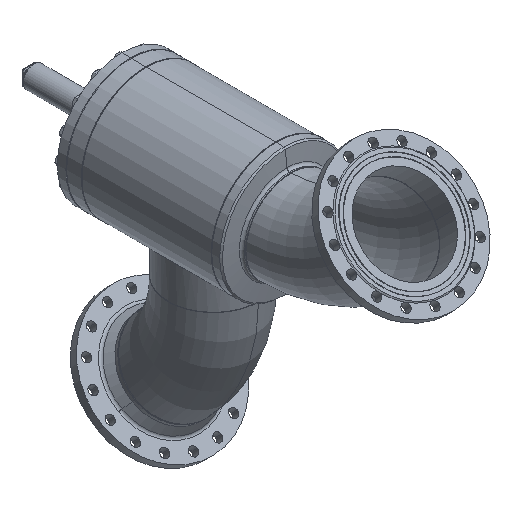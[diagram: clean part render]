
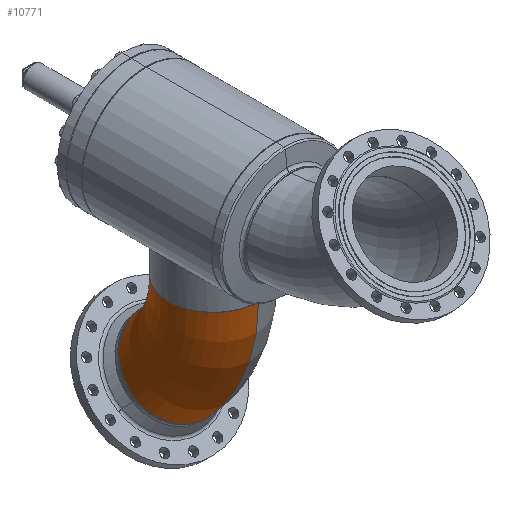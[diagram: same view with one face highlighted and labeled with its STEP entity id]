
A CAD part, isometric view. The second image highlights one B-rep face of the part: STEP entity #10771.
In plain terms, the highlighted toroidal (fillet/blend) face has major radius 533 mm and minor radius 177.8 mm.
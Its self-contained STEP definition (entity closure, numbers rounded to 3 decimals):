
#386 = VERTEX_POINT ( 'NONE', #16191 ) ;
#671 = EDGE_CURVE ( 'NONE', #20298, #386, #16314, .T. ) ;
#2823 = EDGE_CURVE ( 'NONE', #386, #10752, #22336, .T. ) ;
#19733 = CARTESIAN_POINT ( 'NONE',  ( 0., -177.8, 0. ) ) ;
#19759 = FACE_OUTER_BOUND ( 'NONE', #20610, .T. ) ;
#19760 = TOROIDAL_SURFACE ( 'NONE', #19761, 533., 177.8 ) ;
#19761 = AXIS2_PLACEMENT_3D ( 'NONE', #19762, #19763, #19764 ) ;
#19762 = CARTESIAN_POINT ( 'NONE',  ( 0., -533., 0. ) ) ;
#19763 = DIRECTION ( 'NONE',  ( 0., 0., 1. ) ) ;
#19764 = DIRECTION ( 'NONE',  ( 1., 0., 0. ) ) ;
#3633 = EDGE_CURVE ( 'NONE', #20298, #8360, #23323, .T. ) ;
#20298 = VERTEX_POINT ( 'NONE', #14094 ) ;
#20610 = EDGE_LOOP ( 'NONE', ( #11048, #7236, #8223, #5429 ) ) ;
#5429 = ORIENTED_EDGE ( 'NONE', *, *, #12634, .F. ) ;
#22336 = CIRCLE ( 'NONE', #22337, 177.8 ) ;
#22337 = AXIS2_PLACEMENT_3D ( 'NONE', #22338, #22339, #22340 ) ;
#22338 = CARTESIAN_POINT ( 'NONE',  ( 0., 0., 0. ) ) ;
#22339 = DIRECTION ( 'NONE',  ( 1., 0., 0. ) ) ;
#22340 = DIRECTION ( 'NONE',  ( 0., 0., -1. ) ) ;
#22518 = CIRCLE ( 'NONE', #22519, 355.2 ) ;
#22519 = AXIS2_PLACEMENT_3D ( 'NONE', #22520, #22521, #22522 ) ;
#22520 = CARTESIAN_POINT ( 'NONE',  ( 0., -533., 0. ) ) ;
#22521 = DIRECTION ( 'NONE',  ( 0., 0., 1. ) ) ;
#22522 = DIRECTION ( 'NONE',  ( 1., 0., 0. ) ) ;
#23323 = CIRCLE ( 'NONE', #23344, 177.8 ) ;
#23344 = AXIS2_PLACEMENT_3D ( 'NONE', #23345, #23346, #23347 ) ;
#23345 = CARTESIAN_POINT ( 'NONE',  ( 376.888, -156.112, 0. ) ) ;
#23346 = DIRECTION ( 'NONE',  ( 0.707, -0.707, 0. ) ) ;
#23347 = DIRECTION ( 'NONE',  ( 0., 0., -1. ) ) ;
#7236 = ORIENTED_EDGE ( 'NONE', *, *, #671, .T. ) ;
#8223 = ORIENTED_EDGE ( 'NONE', *, *, #2823, .T. ) ;
#8360 = VERTEX_POINT ( 'NONE', #14073 ) ;
#10752 = VERTEX_POINT ( 'NONE', #19733 ) ;
#10771 = ADVANCED_FACE ( 'NONE', ( #19759 ), #19760, .T. ) ;
#11048 = ORIENTED_EDGE ( 'NONE', *, *, #3633, .F. ) ;
#12634 = EDGE_CURVE ( 'NONE', #8360, #10752, #22518, .T. ) ;
#14073 = CARTESIAN_POINT ( 'NONE',  ( 251.164, -281.836, 0. ) ) ;
#14094 = CARTESIAN_POINT ( 'NONE',  ( 502.612, -30.388, 0. ) ) ;
#16191 = CARTESIAN_POINT ( 'NONE',  ( 0., 177.8, 0. ) ) ;
#16314 = CIRCLE ( 'NONE', #16315, 710.8 ) ;
#16315 = AXIS2_PLACEMENT_3D ( 'NONE', #16316, #16317, #16318 ) ;
#16316 = CARTESIAN_POINT ( 'NONE',  ( 0., -533., 0. ) ) ;
#16317 = DIRECTION ( 'NONE',  ( 0., 0., 1. ) ) ;
#16318 = DIRECTION ( 'NONE',  ( 1., 0., 0. ) ) ;
